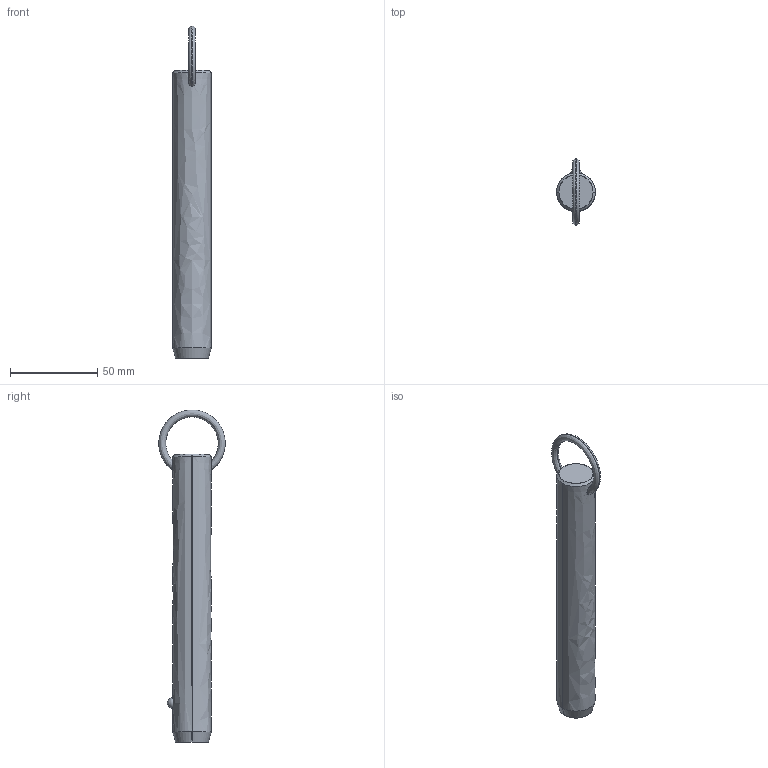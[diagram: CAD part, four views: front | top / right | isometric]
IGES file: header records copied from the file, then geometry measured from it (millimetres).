
Start section: SolidWorks IGES file using analytic representation for surfaces
Global section: file name: C:\Users\liam_\OneDrive\Documents\WORK\Work for WixRoyd\Job Files\J-00019 - Matt Davis CAD Checking\04. CAD Drawings\automotion20190605\P1250.2_v2\P1250.2_v2_20190729_IGES\P1250.087-500.igs; native system: SolidWorks 2017; preprocessor: SolidWorks 2017; author: liam_; date: 190730.001337; units: millimetre
Bounding box: 22.2 x 38.05 x 190.48 mm (x, y, z)
Surface area: 13158.4 mm2 (no closed solid volume)
Topology: 0 solids, 0 shells, 12 faces, 302 edges, 300 vertices
Faces by surface type: revolution 8, bspline 4
